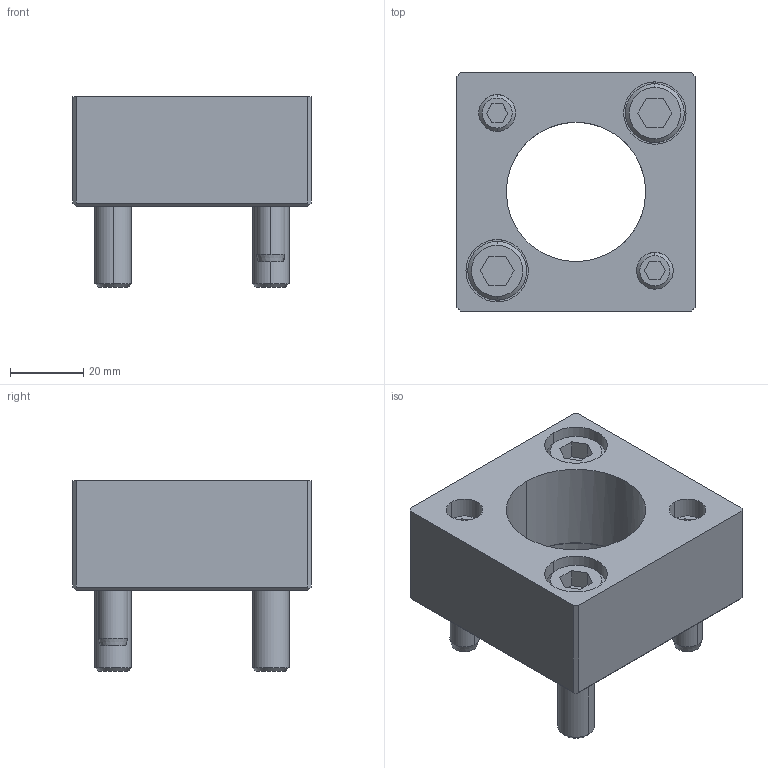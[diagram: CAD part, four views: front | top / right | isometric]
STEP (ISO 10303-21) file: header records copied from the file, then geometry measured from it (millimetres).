
FILE_DESCRIPTION(/* description */ (''),/* implementation_level */ '2;1');
FILE_NAME(/* name */ '3d_mpdr38_04596_r00.stp',/* time_stamp */ '2011-01-10T14:13:29+09:00',/* author */ ('MISUMI'),/* organization */ (''),/* preprocessor_version */ 'ST-DEVELOPER v11',/* originating_system */ 'UGS - NX 5.0',/* authorisation */ '');
FILE_SCHEMA (('CONFIG_CONTROL_DESIGN'));
Length unit declared in the file: millimetre
Products named in the file (1): 3d_mpdr38_04596_r00
Bounding box: 65 x 65 x 52 mm (x, y, z)
Volume: 92327.6 mm3; surface area: 28511.4 mm2
Topology: 7 solids, 7 shells, 139 faces, 311 edges, 200 vertices
Faces by surface type: plane 68, cylinder 45, cone 26
Entity records: 3991 total; most frequent: DIRECTION 701, CARTESIAN_POINT 696, ORIENTED_EDGE 622, EDGE_CURVE 311, AXIS2_PLACEMENT_3D 257, VERTEX_POINT 200, LINE 187, VECTOR 187
